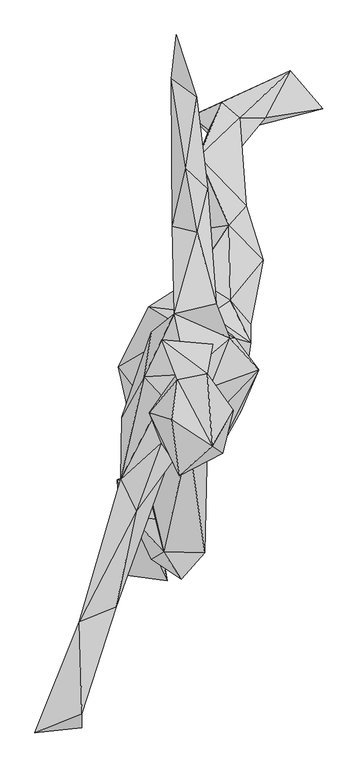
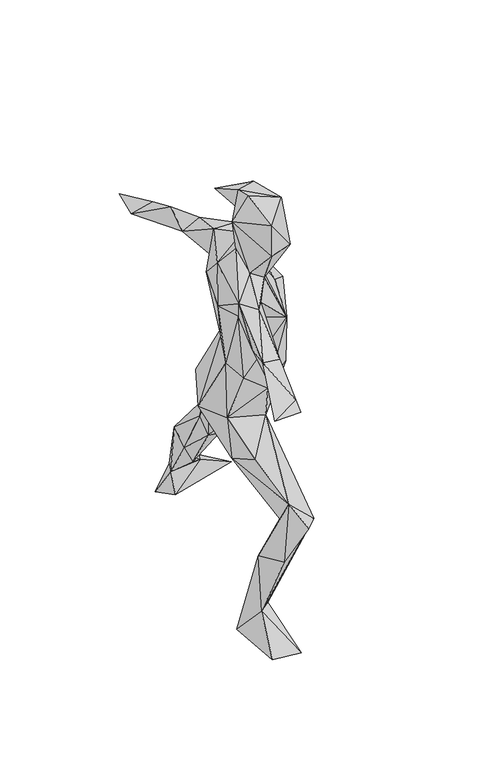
"""IFC4 building model written with IfcOpenShell, lengths in millimetres: geographic element geometry, Enscape AssetDefinition - Juliette 002 Working Out : Enscape AssetDefinition - Juliette 002 Working Out."""

from ifc_helpers import new_model, si_unit, origin, place, context, project, spatial, faceted_brep, source, transform, mapped, element, save


def geographic_element_8761a16f(model_context):
    return source(origin(), model_context, "Body", "Brep", [
        faceted_brep([(-72.1409991, -433.4099889, 13.3560002), (-159.5479995, -421.1420119, 12.9899997), (-111.0540032, -208.4279954, 5.1170001), (-131.3329935, -309.7679913, 104.6100035), (-170.4380065, -234.1800034, 9.8050004), (-122.3289967, -240.6280041, 100.6399989), (-98.4029993, -289.041996, 111.0330001), (-103.136003, -390.3070092, 315.328002), (-141.7080015, -307.9589903, 300.3939986), (2.079, -378.3159852, 424.7530103), (-28.8929995, -325.5110085, 399.0440071), (-78.8360015, -269.4979906, 305.3649962), (-21.7220001, -167.4100012, 477.3690104), (-73.2240006, -313.3049905, 410.1470113), (-79.3519989, -376.2930036, 501.5919805), (-44.174999, -430.6229949, 435.5300069), (-136.0999942, -146.7200071, 541.6849852), (-29.5749996, -157.0560038, 664.5560265), (-111.8199974, -238.3580059, 584.9869847), (-68.1879967, 33.5719995, 584.1180086), (8.6120004, -79.6890035, 607.4609756), (-51.4860004, 135.9270066, 573.6290216), (4.5730001, 30.9660006, 577.0040154), (-108.6589992, 106.1249971, 691.3290024), (-168.1039929, -11.7159998, 653.1509757), (-9.0849996, 257.7530146, 401.8959999), (10.179, 240.9009933, 337.033987), (-18.5780004, 163.0149931, 669.6869731), (11.5390001, 91.7780027, 826.3559937), (-38.869001, 64.0479997, 852.7309895), (52.0640016, 118.5249984, 749.0509748), (49.1969995, 266.782999, 474.0130007), (91.7479992, 35.5900005, 827.0949721), (61.9629994, 43.8669994, 942.7549839), (92.2520012, 71.2110028, 725.7909775), (116.4179966, 197.6709962, 464.4280076), (-9.9330004, 401.2170136, 276.3020098), (82.9830021, 304.756999, 358.3430052), (50.2360016, 249.2540032, 324.4319856), (66.8380037, 16.9590004, 642.0180202), (71.5869963, -96.7260003, 780.1150084), (38.2519998, 378.2140017, 151.4640003), (70.8300024, 478.4319997, 105.2590013), (170.2959985, 570.3529716, 12.0959999), (35.5920009, 508.8210106, 67.6459968), (120.4349995, 478.4179926, 69.2960024), (9.0939999, 453.3529878, 80.9129998), (-25.3420006, 316.0130084, 260.006994), (-25.6980006, 481.31001, 6.1639999), (234.3399972, 496.280998, 9.9139996), (15.4729998, 439.9729967, 5.2080001), (-141.7320073, -130.339995, 675.8329868), (-26.3039991, -164.1519964, 759.4500184), (72.4529997, -100.240998, 933.4279895), (23.8930006, -185.9000027, 1004.3059587), (-97.1520022, -149.473995, 810.725987), (107.8590006, -17.9580003, 1015.1519775), (51.2900017, 44.1330001, 1090.2260542), (12.9429996, -52.8080016, 1148.3910084), (37.4380015, -92.0030028, 1075.1769543), (-43.0070013, 96.6439992, 1054.4830561), (-58.1169985, 92.4799964, 1173.1050014), (24.3420005, 112.0280027, 1155.5919647), (-32.6679982, -26.4740009, 1223.4449387), (7.6859999, 337.7499878, 1025.4989862), (-12.7760004, 252.3699999, 1099.8530388), (-23.1010001, 524.9969959, 943.295002), (-13.9469998, 518.5850263, 993.7490225), (-35.2829993, 378.2379925, 1069.2420006), (-62.4080002, 264.3679976, 1061.3329411), (-64.1150028, 554.5780063, 947.2470284), (-53.9419986, 640.9260035, 961.5539908), (-86.3140002, 3.7110001, 871.6750145), (-103.7190035, 56.0819991, 1061.1560345), (-116.9800013, -79.3889984, 828.9840221), (-162.1399969, -111.8139997, 1063.2059574), (-117.5979972, -31.7989998, 1150.9920359), (-79.7249973, -71.7850029, 1212.7950191), (-163.6610031, -233.961001, 1145.3160048), (-130.2250028, -175.2260029, 1055.3050041), (-206.6999972, -390.5239999, 1090.9639597), (-245.5500066, -514.2220259, 1137.5739574), (-133.2789958, -295.994997, 1151.3379812), (-84.2299983, -161.3940001, 1181.3509464), (-258.8169873, -613.1600142, 1085.8319998), (-172.1689999, -483.9250147, 1106.351018), (-240.8069968, -695.069015, 1116.0080433), (-70.1360032, -200.353995, 1097.507), (-332.5659931, -732.8330278, 1096.5750217), (-240.0649935, -722.2340107, 1089.0109539), (-46.0489988, -177.2300005, 1162.2539759), (-45.8340012, -220.0630009, 1262.7940178), (37.4130011, -182.328999, 1252.3640394), (-18.8040007, -98.6339971, 1160.2569818), (58.1279993, -97.8540033, 1309.2679977), (16.1930006, -168.4470028, 1414.8030281), (-48.6669987, -226.165995, 1373.1510639), (-34.5899984, -0.036, 1296.4069843), (6.6359998, -25.9969998, 1387.9549503), (-63.6669993, -116.3370013, 1416.3650274), (-52.0029999, -37.3449996, 1386.0599995), (-107.7790037, -102.2839993, 1333.9539766), (-83.0769986, 41.2349999, 1354.4089794), (17.0489997, 31.973999, 1345.1910019)], [[[0, 1, 2]], [[1, 3, 4]], [[2, 1, 4]], [[3, 1, 0]], [[5, 2, 4]], [[6, 0, 2]], [[5, 6, 2]], [[6, 3, 0]], [[7, 8, 3]], [[3, 8, 4]], [[9, 3, 6]], [[9, 7, 3]], [[8, 5, 4]], [[10, 6, 5]], [[8, 11, 5]], [[11, 10, 5]], [[10, 9, 6]], [[12, 9, 10]], [[13, 10, 11]], [[10, 13, 12]], [[8, 13, 11]], [[14, 8, 7]], [[14, 13, 8]], [[15, 14, 7]], [[15, 7, 9]], [[16, 13, 14]], [[14, 17, 18]], [[17, 14, 9]], [[18, 16, 14]], [[15, 9, 14]], [[16, 19, 13]], [[13, 19, 12]], [[20, 9, 12]], [[19, 20, 12]], [[19, 21, 22]], [[23, 19, 24]], [[24, 19, 16]], [[19, 23, 21]], [[20, 19, 22]], [[21, 25, 26]], [[27, 21, 23]], [[21, 27, 25]], [[22, 21, 26]], [[28, 27, 23]], [[28, 23, 29]], [[24, 29, 23]], [[28, 30, 27]], [[25, 27, 31]], [[30, 31, 27]], [[28, 32, 30]], [[33, 28, 29]], [[33, 32, 28]], [[32, 34, 30]], [[30, 34, 35]], [[31, 30, 35]], [[25, 31, 36]], [[31, 37, 36]], [[35, 37, 31]], [[35, 22, 38]], [[39, 22, 35]], [[35, 38, 37]], [[34, 39, 35]], [[40, 39, 34]], [[32, 40, 34]], [[40, 20, 39]], [[39, 20, 22]], [[22, 26, 38]], [[38, 41, 42]], [[26, 41, 38]], [[37, 38, 42]], [[37, 42, 36]], [[42, 43, 44]], [[42, 45, 43]], [[36, 42, 44]], [[42, 41, 45]], [[41, 46, 45]], [[41, 47, 46]], [[26, 47, 41]], [[25, 47, 26]], [[25, 36, 47]], [[47, 36, 46]], [[36, 44, 46]], [[44, 43, 48]], [[46, 44, 48]], [[49, 48, 43]], [[43, 45, 49]], [[45, 46, 50]], [[50, 49, 45]], [[46, 48, 50]], [[50, 48, 49]], [[20, 17, 9]], [[40, 17, 20]], [[17, 51, 18]], [[52, 51, 17]], [[40, 52, 17]], [[53, 52, 40]], [[53, 40, 32]], [[54, 52, 53]], [[52, 55, 51]], [[54, 55, 52]], [[54, 53, 56]], [[33, 53, 32]], [[56, 53, 33]], [[57, 58, 56]], [[58, 59, 56]], [[57, 56, 33]], [[56, 59, 54]], [[60, 57, 33]], [[29, 60, 33]], [[61, 57, 62]], [[63, 57, 61]], [[62, 57, 60]], [[63, 58, 57]], [[62, 60, 64]], [[61, 62, 65]], [[65, 62, 64]], [[64, 66, 67]], [[68, 64, 67]], [[65, 64, 68]], [[64, 69, 66]], [[64, 60, 69]], [[69, 65, 68]], [[69, 61, 65]], [[68, 67, 70]], [[69, 68, 70]], [[67, 71, 70]], [[71, 67, 66]], [[66, 70, 71]], [[69, 70, 66]], [[61, 69, 60]], [[60, 29, 72]], [[73, 60, 72]], [[61, 60, 73]], [[24, 74, 29]], [[74, 72, 29]], [[75, 72, 74]], [[72, 75, 73]], [[76, 61, 73]], [[73, 75, 76]], [[76, 63, 61]], [[77, 63, 76]], [[78, 76, 75]], [[77, 76, 78]], [[75, 74, 79]], [[78, 75, 79]], [[78, 80, 81]], [[81, 82, 78]], [[78, 83, 77]], [[78, 79, 80]], [[78, 82, 83]], [[84, 80, 85]], [[85, 80, 79]], [[81, 80, 84]], [[85, 82, 81]], [[84, 85, 86]], [[81, 86, 85]], [[85, 79, 87]], [[82, 85, 87]], [[88, 81, 84]], [[88, 86, 81]], [[86, 89, 84]], [[89, 88, 84]], [[88, 89, 86]], [[90, 82, 87]], [[83, 82, 90]], [[87, 79, 54]], [[90, 87, 54]], [[91, 83, 90]], [[92, 90, 93]], [[91, 90, 92]], [[90, 54, 93]], [[79, 55, 54]], [[93, 54, 59]], [[93, 59, 58]], [[94, 92, 93]], [[58, 94, 93]], [[95, 96, 92]], [[92, 96, 91]], [[95, 92, 94]], [[97, 94, 63]], [[63, 94, 58]], [[97, 98, 94]], [[95, 94, 98]], [[95, 99, 96]], [[99, 95, 100]], [[95, 98, 100]], [[96, 99, 101]], [[96, 101, 91]], [[100, 101, 99]], [[100, 97, 101]], [[100, 102, 97]], [[100, 98, 102]], [[98, 97, 103]], [[102, 98, 103]], [[103, 97, 102]], [[97, 77, 101]], [[97, 63, 77]], [[91, 101, 83]], [[83, 101, 77]], [[55, 79, 74]], [[74, 51, 55]], [[74, 24, 51]], [[24, 16, 51]], [[51, 16, 18]]]),
    ])


if __name__ == "__main__":
    model = new_model("IFC4")
    model_context = context("Model", 3, world=origin())
    ifc_project = project(units=[si_unit("LENGTHUNIT", "METRE", prefix="MILLI")], contexts=[model_context])
    site = spatial("IfcSite", under=ifc_project)
    building = spatial("IfcBuilding", under=site)
    placement = place(None, origin())
    geographic_element_shape = geographic_element_8761a16f(model_context)
    element("IfcGeographicElement", 1, ObjectType="Enscape AssetDefinition - Juliette 002 Working Out : Enscape AssetDefinition - Juliette 002 Working Out", at=placement, inside=building, context=model_context, shape_type="MappedRepresentation", body=[
        mapped(geographic_element_shape, transform((0.0, 0.0, 0.0), x_axis=(1.0, 0.0, 0.0), y_axis=(0.0, 1.0, 0.0), z_axis=(0.0, 0.0, 1.0))),
    ])
    save(model, "model.ifc")
